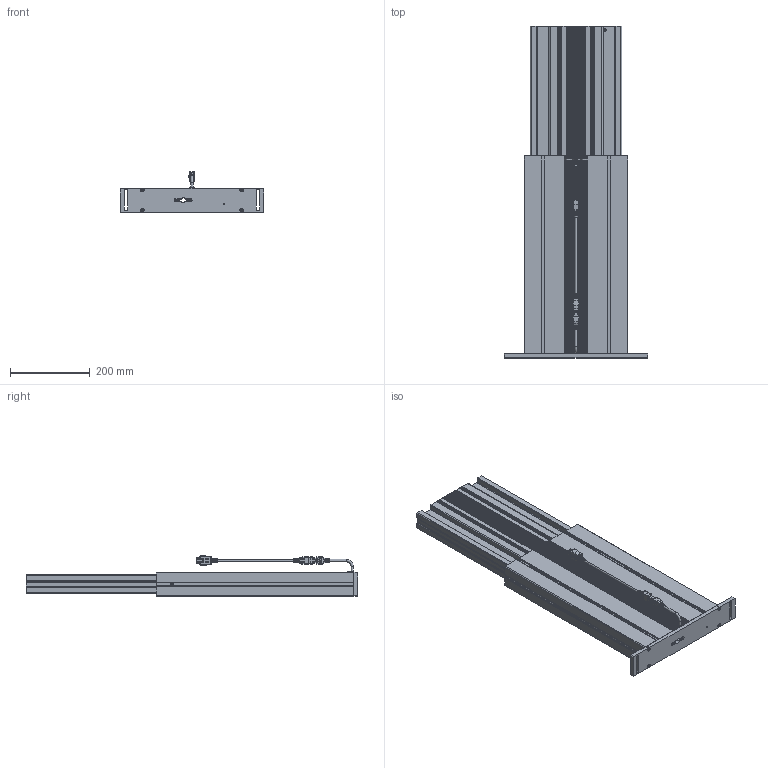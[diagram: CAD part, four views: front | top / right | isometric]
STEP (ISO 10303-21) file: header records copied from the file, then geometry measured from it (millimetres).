
FILE_DESCRIPTION(/* description */ ('Unknown'),/* implementation_level */ '2;1');
FILE_NAME(/* name */ '901.01103_01-Ausgefahren',/* time_stamp */ '2022-06-27T11:03:22+02:00',/* author */ ('Unknown'),/* organization */ ('Unknown'),/* preprocessor_version */ 'ST-DEVELOPER v18.1',/* originating_system */ 'Solid Edge',/* authorisation */ 'Unknown');
FILE_SCHEMA (('AUTOMOTIVE_DESIGN {1 0 10303 214 3 1 1}'));
Products named in the file (12): 901.01103; 126.00137; 119.00305; 119.00404; 142.00166; 124.00201_oa_0; 142.00241; 110.00113_oa_1; 115.00200_oa_2; 124.00151; Kabel Motor Sx; 142.00341
Assembly tree (16 placements, depth 2):
  901.01103
    126.00137
    119.00305
    119.00404
    142.00166  x4
    124.00201_oa_0
    142.00241  x2
    110.00113_oa_1
    115.00200_oa_2
    124.00151
    Kabel Motor Sx
    142.00341  x2
Bounding box: 360 x 830 x 100.67 mm (x, y, z)
Volume: 2590559.6 mm3; surface area: 1571761.1 mm2
Topology: 13 solids, 13 shells, 3227 faces, 9137 edges, 6050 vertices
Faces by surface type: plane 1895, cylinder 1139, torus 103, bspline 72, cone 12, sphere 6
Full cylindrical faces by diameter (mm): 1.5 x6, 1.82 x6, 2.459 x1, 2.7 x6, 3.242 x4, 3.4 x1, 4 x4, 5 x5, 5.5 x4, 6 x3, 7 x4, 8.5 x4, 8.7 x4, 30 x2
Entity records: 127792 total; most frequent: CARTESIAN_POINT 22243, ORIENTED_EDGE 17786, DIRECTION 17228, EDGE_CURVE 8893, VERTEX_POINT 5931, LINE 5866, VECTOR 5866, AXIS2_PLACEMENT_3D 5681
